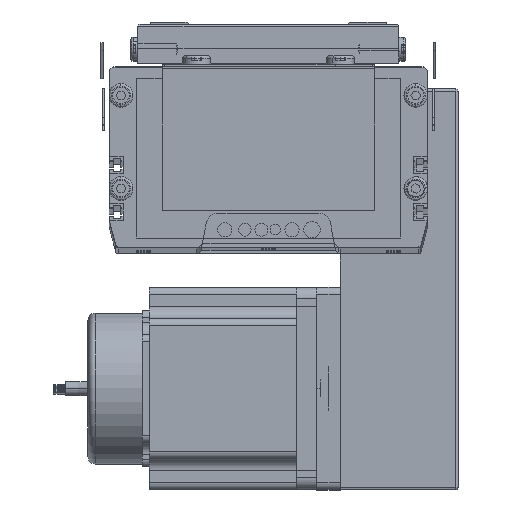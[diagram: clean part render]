
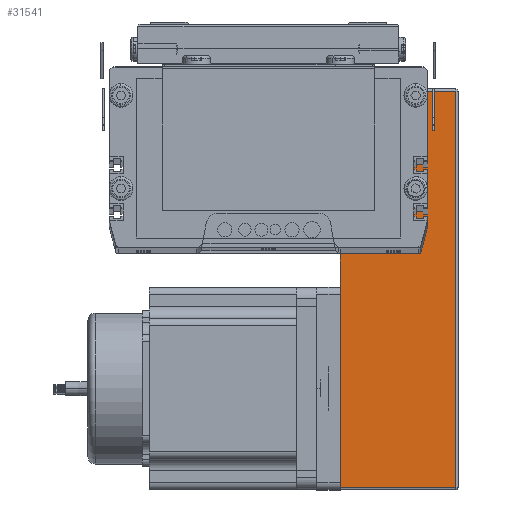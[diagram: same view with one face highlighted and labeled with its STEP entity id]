
A CAD part, top view. The second image highlights one B-rep face of the part: STEP entity #31541.
In plain terms, the highlighted planar face has unit normal (0, 0, 1) as drawn and (0, 1, 0) by its records, which use the part's own axes.
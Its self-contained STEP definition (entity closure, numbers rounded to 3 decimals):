
#31534 = ORIENTED_EDGE ( 'NONE', *, *, #31553, .F. ) ;
#31541 = ADVANCED_FACE ( 'NONE', ( #43976 ), #43970, .F. ) ;
#31543 = VERTEX_POINT ( 'NONE', #44038 ) ;
#31546 = ORIENTED_EDGE ( 'NONE', *, *, #31637, .T. ) ;
#31552 = ORIENTED_EDGE ( 'NONE', *, *, #31662, .F. ) ;
#31553 = EDGE_CURVE ( 'NONE', #33710, #31543, #44047, .T. ) ;
#31637 = EDGE_CURVE ( 'NONE', #31654, #31800, #44392, .T. ) ;
#31654 = VERTEX_POINT ( 'NONE', #44438 ) ;
#31662 = EDGE_CURVE ( 'NONE', #31543, #31800, #44550, .T. ) ;
#31705 = EDGE_LOOP ( 'NONE', ( #31546, #31552, #31534, #34643, #34652, #34657, #34661, #34656, #34733 ) ) ;
#31800 = VERTEX_POINT ( 'NONE', #45206 ) ;
#33710 = VERTEX_POINT ( 'NONE', #37281 ) ;
#34643 = ORIENTED_EDGE ( 'NONE', *, *, #34645, .F. ) ;
#34644 = EDGE_CURVE ( 'NONE', #34670, #34647, #39954, .T. ) ;
#34645 = EDGE_CURVE ( 'NONE', #34647, #33710, #39945, .T. ) ;
#34646 = EDGE_CURVE ( 'NONE', #34649, #34648, #40012, .T. ) ;
#34647 = VERTEX_POINT ( 'NONE', #39944 ) ;
#34648 = VERTEX_POINT ( 'NONE', #40011 ) ;
#34649 = VERTEX_POINT ( 'NONE', #39956 ) ;
#34651 = VERTEX_POINT ( 'NONE', #40007 ) ;
#34652 = ORIENTED_EDGE ( 'NONE', *, *, #34644, .F. ) ;
#34653 = EDGE_CURVE ( 'NONE', #34651, #34670, #40003, .T. ) ;
#34656 = ORIENTED_EDGE ( 'NONE', *, *, #34646, .T. ) ;
#34657 = ORIENTED_EDGE ( 'NONE', *, *, #34653, .F. ) ;
#34658 = EDGE_CURVE ( 'NONE', #34651, #34649, #40000, .T. ) ;
#34661 = ORIENTED_EDGE ( 'NONE', *, *, #34658, .T. ) ;
#34670 = VERTEX_POINT ( 'NONE', #40042 ) ;
#34731 = EDGE_CURVE ( 'NONE', #34648, #31654, #40143, .T. ) ;
#34733 = ORIENTED_EDGE ( 'NONE', *, *, #34731, .T. ) ;
#37281 = CARTESIAN_POINT ( 'NONE',  ( 74.961, 70., 0. ) ) ;
#39944 = CARTESIAN_POINT ( 'NONE',  ( 10.902, 70., 0. ) ) ;
#39945 = LINE ( 'NONE', #40015, #40014 ) ;
#39946 = DIRECTION ( 'NONE',  ( 1., 0., 0. ) ) ;
#39947 = VECTOR ( 'NONE', #39946, 1000. ) ;
#39948 = CARTESIAN_POINT ( 'NONE',  ( 0., 70., 0. ) ) ;
#39954 = LINE ( 'NONE', #39948, #39947 ) ;
#39956 = CARTESIAN_POINT ( 'NONE',  ( 1., 70., 49. ) ) ;
#39988 = DIRECTION ( 'NONE',  ( 0., 0., 1. ) ) ;
#39989 = VECTOR ( 'NONE', #39988, 1000. ) ;
#39994 = DIRECTION ( 'NONE',  ( 1., 0., 0. ) ) ;
#39995 = VECTOR ( 'NONE', #39994, 1000. ) ;
#39996 = CARTESIAN_POINT ( 'NONE',  ( 0., 70., 0. ) ) ;
#39999 = CARTESIAN_POINT ( 'NONE',  ( 1., 70., 50. ) ) ;
#40000 = LINE ( 'NONE', #39999, #39989 ) ;
#40003 = LINE ( 'NONE', #39996, #39995 ) ;
#40007 = CARTESIAN_POINT ( 'NONE',  ( 1., 70., 0. ) ) ;
#40008 = DIRECTION ( 'NONE',  ( 1., 0., 0. ) ) ;
#40009 = VECTOR ( 'NONE', #40008, 1000. ) ;
#40010 = CARTESIAN_POINT ( 'NONE',  ( 0., 70., 49. ) ) ;
#40011 = CARTESIAN_POINT ( 'NONE',  ( 169., 70., 49. ) ) ;
#40012 = LINE ( 'NONE', #40010, #40009 ) ;
#40013 = DIRECTION ( 'NONE',  ( 1., 0., 0. ) ) ;
#40014 = VECTOR ( 'NONE', #40013, 1000. ) ;
#40015 = CARTESIAN_POINT ( 'NONE',  ( 0., 70., 0. ) ) ;
#40042 = CARTESIAN_POINT ( 'NONE',  ( 5.418, 70., 0. ) ) ;
#40139 = DIRECTION ( 'NONE',  ( 0., 0., -1. ) ) ;
#40140 = VECTOR ( 'NONE', #40139, 1000. ) ;
#40141 = CARTESIAN_POINT ( 'NONE',  ( 169., 70., 50. ) ) ;
#40143 = LINE ( 'NONE', #40141, #40140 ) ;
#43970 = PLANE ( 'NONE',  #43971 ) ;
#43971 = AXIS2_PLACEMENT_3D ( 'NONE', #44037, #44031, #44030 ) ;
#43976 = FACE_OUTER_BOUND ( 'NONE', #31705, .T. ) ;
#44030 = DIRECTION ( 'NONE',  ( 0., 0., -1. ) ) ;
#44031 = DIRECTION ( 'NONE',  ( 0., -1., 0. ) ) ;
#44032 = DIRECTION ( 'NONE',  ( 1., 0., 0. ) ) ;
#44033 = VECTOR ( 'NONE', #44032, 1000. ) ;
#44035 = CARTESIAN_POINT ( 'NONE',  ( 0., 70., 0. ) ) ;
#44037 = CARTESIAN_POINT ( 'NONE',  ( 0., 70., 50. ) ) ;
#44038 = CARTESIAN_POINT ( 'NONE',  ( 80.439, 70., 0. ) ) ;
#44047 = LINE ( 'NONE', #44035, #44033 ) ;
#44392 = LINE ( 'NONE', #44394, #44441 ) ;
#44394 = CARTESIAN_POINT ( 'NONE',  ( 0., 70., 0. ) ) ;
#44438 = CARTESIAN_POINT ( 'NONE',  ( 169., 70., 0. ) ) ;
#44440 = DIRECTION ( 'NONE',  ( -1., 0., 0. ) ) ;
#44441 = VECTOR ( 'NONE', #44440, 1000. ) ;
#44537 = DIRECTION ( 'NONE',  ( 1., 0., 0. ) ) ;
#44538 = VECTOR ( 'NONE', #44537, 1000. ) ;
#44550 = LINE ( 'NONE', #44551, #44538 ) ;
#44551 = CARTESIAN_POINT ( 'NONE',  ( 0., 70., 0. ) ) ;
#45206 = CARTESIAN_POINT ( 'NONE',  ( 85.9, 70., 0. ) ) ;
